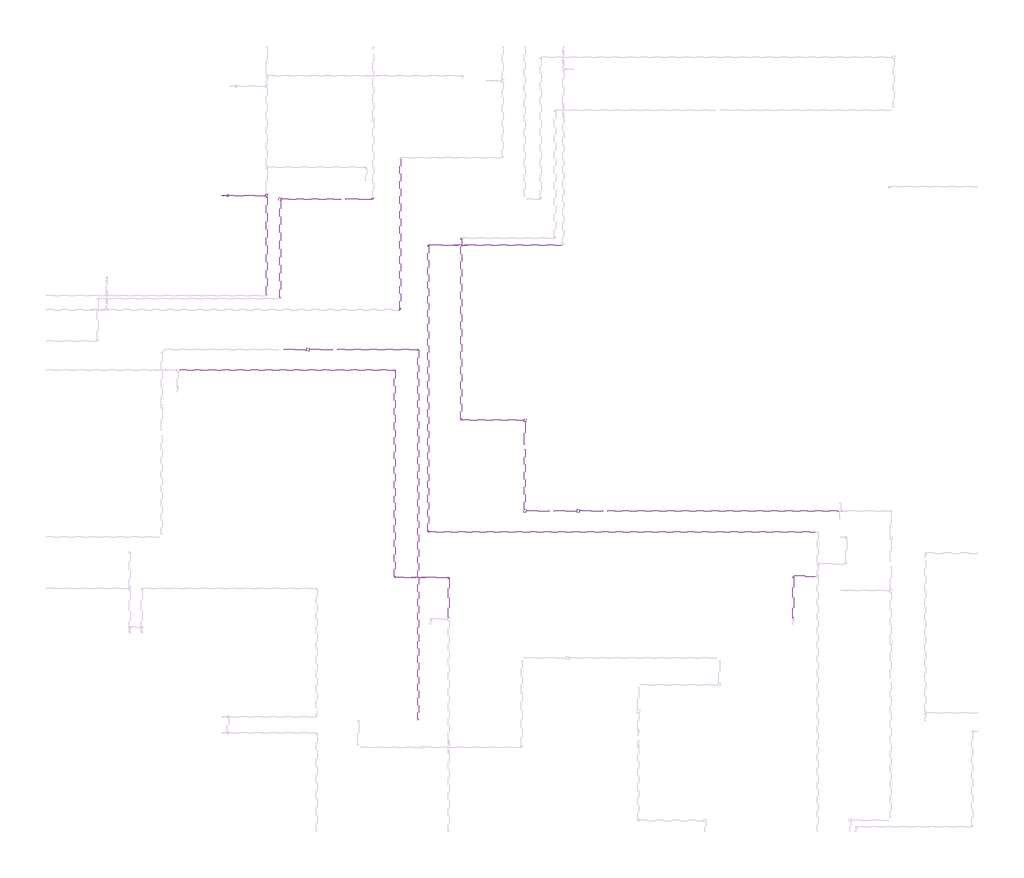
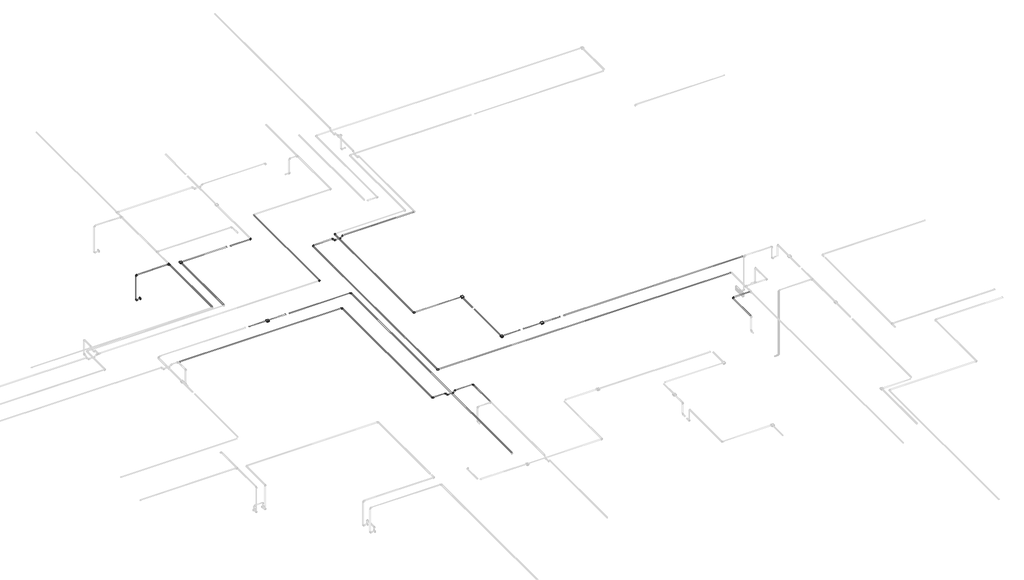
# One storey, part 32 of 40: 37 cable carrier segments, 22 cable carrier fittings, 5 alarms, 1 electric appliance.
"""IFC4 building model written with IfcOpenShell, lengths in millimetres."""

from ifc_helpers import new_model, si_unit, point, frame, frame_2d, origin, place, context, project, spatial, circle_curve, trimmed, segment, composite_curve, outline, extrude, transform, mapped, element, save
from components import alarm_a2247946, cable_carrier_fitting_69f1a801, cable_carrier_fitting_8122f9af, cable_carrier_fitting_8fd13dfc, electric_appliance_5961a143

model = new_model("IFC4")

# Units and contexts
model_context = context("Model", 3, world=origin())
ifc_project = project(units=[si_unit("LENGTHUNIT", "METRE", prefix="MILLI")], contexts=[model_context])

# Site, building, storey
site = spatial("IfcSite", under=ifc_project)
building = spatial("IfcBuilding", under=site)
storey = spatial("IfcBuildingStorey", under=building, Name="1 этаж", Elevation=0.0)

# Alarms
placement = place(None, origin())
alarm_shape = alarm_a2247946(model_context)
element("IfcAlarm", 1, ObjectType="RBZ_ИзоляторШлейфа_Рубеж_ИЗ-1_прот.R3(плоскость) : ИЗ-1 прот.R3", at=placement, inside=storey, context=model_context, shape_type="MappedRepresentation", body=[
    mapped(alarm_shape, transform((5967.6759979, 7784.6370105, 3200.0403068), x_axis=(1.0, 0.0, 0.0), y_axis=(0.0, 1.0, 0.0), z_axis=(0.0, 0.0, 1.0))),
])
element("IfcAlarm", 2, ObjectType="RBZ_ИзоляторШлейфа_Рубеж_ИЗ-1_прот.R3(плоскость) : ИЗ-1 прот.R3", at=placement, inside=storey, context=model_context, shape_type="MappedRepresentation", body=[
    mapped(alarm_shape, transform((10547.9472908, 3644.6370105, 3200.05), x_axis=(1.0, 0.0, 0.0), y_axis=(0.0, 1.0, 0.0), z_axis=(0.0, 0.0, 1.0))),
])
element("IfcAlarm", 3, ObjectType="RBZ_ИзоляторШлейфа_Рубеж_ИЗ-1_прот.R3(плоскость) : ИЗ-1 прот.R3", at=placement, inside=storey, context=model_context, shape_type="MappedRepresentation", body=[
    mapped(alarm_shape, transform((6487.2322071, 4964.637062, 3200.5606424), x_axis=(1.0, 0.0, 0.0), y_axis=(0.0, 1.0, 0.0), z_axis=(0.0, 0.0, 1.0))),
])
element("IfcAlarm", 4, ObjectType="RBZ_ИзоляторШлейфа_Рубеж_ИЗ-1_прот.R3(плоскость) : ИЗ-1 прот.R3", at=placement, inside=storey, context=model_context, shape_type="MappedRepresentation", body=[
    mapped(alarm_shape, transform((11547.2322071, 1945.4117677, 3200.05), x_axis=(1.0, 0.0, 0.0), y_axis=(0.0, 1.0, 0.0), z_axis=(0.0, 0.0, 1.0))),
])
element("IfcAlarm", 5, ObjectType="RBZ_ИзоляторШлейфа_Рубеж_ИЗ-1_прот.R3(плоскость) : ИЗ-1 прот.R3", at=placement, inside=storey, context=model_context, shape_type="MappedRepresentation", body=[
    mapped(alarm_shape, transform((10547.9472908, 1945.4117677, 3200.05), x_axis=(1.0, 0.0, 0.0), y_axis=(0.0, 1.0, 0.0), z_axis=(0.0, 0.0, 1.0))),
])

# Cable carrier fittings
cable_carrier_fitting_shape = cable_carrier_fitting_69f1a801(model_context)
element("IfcCableCarrierFitting", 6, ObjectType="ADSK_Поворот_Минимальный размер : Неспецифицируемый", at=placement, inside=storey, context=model_context, shape_type="MappedRepresentation", body=[
    mapped(cable_carrier_fitting_shape, transform((7707.6757787, 7784.6370105, 3189.2922955), x_axis=(0.999999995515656, 0.0, 9.470315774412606e-05), y_axis=(1.5270577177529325e-09, 0.9999999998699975, -1.6124675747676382e-05), z_axis=(-9.47031577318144e-05, 1.6124675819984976e-05, 0.9999999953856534))),
])
element("IfcCableCarrierFitting", 7, ObjectType="ADSK_Поворот_Минимальный размер : Неспецифицируемый", at=placement, inside=storey, context=model_context, shape_type="MappedRepresentation", body=[
    mapped(cable_carrier_fitting_shape, transform((9353.6759979, 3644.6370105, 3189.3), x_axis=(0.0, -1.0, 0.0), y_axis=(1.0, 0.0, 0.0), z_axis=(0.0, 0.0, 1.0))),
])
element("IfcCableCarrierFitting", 8, ObjectType="ADSK_Поворот_Минимальный размер : Неспецифицируемый", at=placement, inside=storey, context=model_context, shape_type="MappedRepresentation", body=[
    mapped(cable_carrier_fitting_shape, transform((8554.17594, 4964.637062, 3189.8106424), x_axis=(0.0, 1.0, 0.0), y_axis=(-1.0, 0.0, 0.0), z_axis=(0.0, 0.0, 1.0))),
])
element("IfcCableCarrierFitting", 9, ObjectType="ADSK_Поворот_Минимальный размер : Неспецифицируемый", at=placement, inside=storey, context=model_context, shape_type="MappedRepresentation", body=[
    mapped(cable_carrier_fitting_shape, transform((9353.6759979, 7054.6370105, 3189.3), x_axis=(-1.0, 0.0, 0.0), y_axis=(0.0, -1.0, 0.0), z_axis=(0.0, 0.0, 1.0))),
])
element("IfcCableCarrierFitting", 10, ObjectType="ADSK_Поворот_Минимальный размер : Неспецифицируемый", at=placement, inside=storey, context=model_context, shape_type="MappedRepresentation", body=[
    mapped(cable_carrier_fitting_shape, transform((4893.4761923, 7849.6370105, 2535.0911237), x_axis=(-1.0, 0.0, 0.0), y_axis=(0.0, 0.0, 1.0), z_axis=(0.0, 1.0, 0.0))),
])
element("IfcCableCarrierFitting", 11, ObjectType="ADSK_Поворот_Минимальный размер : Неспецифицируемый", at=placement, inside=storey, context=model_context, shape_type="MappedRepresentation", body=[
    mapped(cable_carrier_fitting_shape, transform((4893.4761923, 7849.6370105, 3187.0), x_axis=(0.0, 0.0, 1.0), y_axis=(1.0, 0.0, 0.0), z_axis=(0.0, 1.0, 0.0))),
])
element("IfcCableCarrierFitting", 12, ObjectType="ADSK_Поворот_Минимальный размер : Неспецифицируемый", at=placement, inside=storey, context=model_context, shape_type="MappedRepresentation", body=[
    mapped(cable_carrier_fitting_shape, transform((8217.6759979, 5709.6370105, 3180.0), x_axis=(1.0, 0.0, 0.0), y_axis=(0.0, 1.0, 0.0), z_axis=(0.0, 0.0, 1.0))),
])
element("IfcCableCarrierFitting", 13, ObjectType="ADSK_Поворот_Минимальный размер : Неспецифицируемый", at=placement, inside=storey, context=model_context, shape_type="MappedRepresentation", body=[
    mapped(cable_carrier_fitting_shape, transform((8736.5137184, 6924.6370105, 3180.0), x_axis=(-1.0, 0.0, 0.0), y_axis=(0.0, -1.0, 0.0), z_axis=(0.0, 0.0, 1.0))),
])
element("IfcCableCarrierFitting", 14, ObjectType="ADSK_Поворот_Минимальный размер : Неспецифицируемый", at=placement, inside=storey, context=model_context, shape_type="MappedRepresentation", body=[
    mapped(cable_carrier_fitting_shape, transform((8736.5137184, 1554.6370105, 3180.0), x_axis=(0.0, -1.0, 0.0), y_axis=(1.0, 0.0, 0.0), z_axis=(0.0, 0.0, 1.0))),
])
element("IfcCableCarrierFitting", 15, ObjectType="ADSK_Поворот_Минимальный размер : Неспецифицируемый", at=placement, inside=storey, context=model_context, shape_type="MappedRepresentation", body=[
    mapped(cable_carrier_fitting_shape, transform((8114.5925452, 4582.0648158, 3180.0), x_axis=(0.0, 1.0, 0.0), y_axis=(-1.0, 0.0, 0.0), z_axis=(0.0, 0.0, 1.0))),
])
element("IfcCableCarrierFitting", 16, ObjectType="ADSK_Поворот_Минимальный размер : Неспецифицируемый", at=placement, inside=storey, context=model_context, shape_type="MappedRepresentation", body=[
    mapped(cable_carrier_fitting_shape, transform((15567.6759979, 724.6370105, 3180.0), x_axis=(-1.0, 0.0, 0.0), y_axis=(0.0, -1.0, 0.0), z_axis=(0.0, 0.0, 1.0))),
])
element("IfcCableCarrierFitting", 17, ObjectType="ADSK_Поворот_Минимальный размер : Неспецифицируемый", at=placement, inside=storey, context=model_context, shape_type="MappedRepresentation", body=[
    mapped(cable_carrier_fitting_shape, transform((8114.5925452, 699.6370105, 3180.0), x_axis=(0.0, -1.0, 0.0), y_axis=(1.0, 0.0, 0.0), z_axis=(0.0, 0.0, 1.0))),
])
element("IfcCableCarrierFitting", 18, ObjectType="ADSK_Поворот_Минимальный размер : Неспецифицируемый", at=placement, inside=storey, context=model_context, shape_type="MappedRepresentation", body=[
    mapped(cable_carrier_fitting_shape, transform((9122.6759979, 699.6370105, 3180.0), x_axis=(0.0, 1.0, 0.0), y_axis=(-1.0, 0.0, 0.0), z_axis=(0.0, 0.0, 1.0))),
])
cable_carrier_fitting_2_shape = cable_carrier_fitting_8122f9af(model_context)
element("IfcCableCarrierFitting", 19, ObjectType="ADSK_Поворот_Минимальный размер : Неспецифицируемый", at=placement, inside=storey, context=model_context, shape_type="MappedRepresentation", body=[
    mapped(cable_carrier_fitting_2_shape, transform((9470.2482691, 6924.6370105, 3180.0), x_axis=(-1.0, 0.0, 0.0), y_axis=(0.0, 0.0, -1.0), z_axis=(0.0, -1.0, 0.0))),
])
element("IfcCableCarrierFitting", 20, ObjectType="ADSK_Поворот_Минимальный размер : Неспецифицируемый", at=placement, inside=storey, context=model_context, shape_type="MappedRepresentation", body=[
    mapped(cable_carrier_fitting_2_shape, transform((9420.2482691, 6924.6370105, 3130.0), x_axis=(-0.7071067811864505, 0.0, -0.7071067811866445), y_axis=(-0.7071067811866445, 0.0, 0.7071067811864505), z_axis=(0.0, 1.0, 0.0))),
])
element("IfcCableCarrierFitting", 21, ObjectType="ADSK_Поворот_Минимальный размер : Неспецифицируемый", at=placement, inside=storey, context=model_context, shape_type="MappedRepresentation", body=[
    mapped(cable_carrier_fitting_2_shape, transform((9287.1037266, 6924.6370105, 3130.0), x_axis=(-1.0, 0.0, 0.0), y_axis=(0.0, 0.0, 1.0), z_axis=(0.0, 1.0, 0.0))),
])
element("IfcCableCarrierFitting", 22, ObjectType="ADSK_Поворот_Минимальный размер : Неспецифицируемый", at=placement, inside=storey, context=model_context, shape_type="MappedRepresentation", body=[
    mapped(cable_carrier_fitting_2_shape, transform((9237.1037266, 6924.6370105, 3180.0), x_axis=(-0.7071067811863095, 0.0, 0.7071067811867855), y_axis=(-0.7071067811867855, 0.0, -0.7071067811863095), z_axis=(0.0, -1.0, 0.0))),
])
element("IfcCableCarrierFitting", 23, ObjectType="ADSK_Поворот_Минимальный размер : Неспецифицируемый", at=placement, inside=storey, context=model_context, shape_type="MappedRepresentation", body=[
    mapped(cable_carrier_fitting_2_shape, transform((8620.7482113, 699.6370105, 3130.0), x_axis=(-0.7071067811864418, 0.0, -0.7071067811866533), y_axis=(-0.7071067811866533, 0.0, 0.7071067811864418), z_axis=(0.0, 1.0, 0.0))),
])
element("IfcCableCarrierFitting", 24, ObjectType="ADSK_Поворот_Минимальный размер : Неспецифицируемый", at=placement, inside=storey, context=model_context, shape_type="MappedRepresentation", body=[
    mapped(cable_carrier_fitting_2_shape, transform((8487.6036688, 699.6370105, 3130.0), x_axis=(-1.0, 0.0, 0.0), y_axis=(0.0, 0.0, 1.0), z_axis=(0.0, 1.0, 0.0))),
])
element("IfcCableCarrierFitting", 25, ObjectType="ADSK_Поворот_Минимальный размер : Неспецифицируемый", at=placement, inside=storey, context=model_context, shape_type="MappedRepresentation", body=[
    mapped(cable_carrier_fitting_2_shape, transform((8437.6036688, 699.6370105, 3180.0), x_axis=(-0.707106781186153, 0.0, 0.7071067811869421), y_axis=(-0.7071067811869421, 0.0, -0.707106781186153), z_axis=(0.0, -1.0, 0.0))),
])
element("IfcCableCarrierFitting", 26, ObjectType="ADSK_Поворот_Минимальный размер : Неспецифицируемый", at=placement, inside=storey, context=model_context, shape_type="MappedRepresentation", body=[
    mapped(cable_carrier_fitting_2_shape, transform((8670.7482113, 699.6370105, 3180.0), x_axis=(0.7071067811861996, 0.0, 0.7071067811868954), y_axis=(0.7071067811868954, 0.0, -0.7071067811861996), z_axis=(0.0, 1.0, 0.0))),
])
cable_carrier_fitting_3_shape = cable_carrier_fitting_8fd13dfc(model_context)
element("IfcCableCarrierFitting", 27, ObjectType="ADSK_Тройник : ПВХ", at=placement, inside=storey, context=model_context, shape_type="MappedRepresentation", body=[
    mapped(cable_carrier_fitting_3_shape, transform((5717.6759979, 7849.6370105, 3187.0), x_axis=(0.0, -1.0, 0.0), y_axis=(1.0, 0.0, 0.0), z_axis=(0.0, 0.0, 1.0))),
])

# Cable carrier segments
element("IfcCableCarrierSegment", 28, ObjectType="Гофрированная труба", at=placement, inside=storey, context=model_context, shape_type="SweptSolid", body=[
    extrude(outline(composite_curve([segment(trimmed(circle_curve(frame_2d((3189.8106424, 8554.17594)), 10.0), [point((3189.8106424, 8564.17594))], [point((3199.8106424, 8554.17594))], False, "CARTESIAN"), True, "CONTINUOUS"), segment(trimmed(circle_curve(frame_2d((3189.8106424, 8554.17594)), 10.0), [point((3199.8106424, 8554.17594))], [point((3189.8106424, 8544.17594))], False, "CARTESIAN"), True, "CONTINUOUS"), segment(trimmed(circle_curve(frame_2d((3189.8106424, 8554.17594)), 10.0), [point((3189.8106424, 8544.17594))], [point((3179.8106424, 8554.17594))], False, "CARTESIAN"), True, "CONTINUOUS"), segment(trimmed(circle_curve(frame_2d((3189.8106424, 8554.17594)), 10.0), [point((3179.8106424, 8554.17594))], [point((3189.8106424, 8564.17594))], False, "CARTESIAN"), True, "CONTINUOUS")], self_intersect=False)), frame((0.0, -1954.3629895, 0.0), z_axis=(0.0, 1.0, 0.0), x_axis=(0.0, 0.0, 1.0)), (0.0, 0.0, 1.0), 6898.0000515),
])
element("IfcCableCarrierSegment", 29, ObjectType="Гофрированная труба", at=placement, inside=storey, context=model_context, shape_type="SweptSolid", body=[
    extrude(outline(composite_curve([segment(trimmed(circle_curve(frame_2d((3644.6370105, 3189.3)), 10.0), [point((3634.6370105, 3189.3))], [point((3644.6370105, 3199.3))], False, "CARTESIAN"), True, "CONTINUOUS"), segment(trimmed(circle_curve(frame_2d((3644.6370105, 3189.3)), 10.0), [point((3644.6370105, 3199.3))], [point((3654.6370105, 3189.3))], False, "CARTESIAN"), True, "CONTINUOUS"), segment(trimmed(circle_curve(frame_2d((3644.6370105, 3189.3)), 10.0), [point((3654.6370105, 3189.3))], [point((3644.6370105, 3179.3))], False, "CARTESIAN"), True, "CONTINUOUS"), segment(trimmed(circle_curve(frame_2d((3644.6370105, 3189.3)), 10.0), [point((3644.6370105, 3179.3))], [point((3634.6370105, 3189.3))], False, "CARTESIAN"), True, "CONTINUOUS")], self_intersect=False)), frame((9374.6759979, 0.0, 0.0), z_axis=(1.0, 0.0, 0.0), x_axis=(0.0, 1.0, 0.0)), (0.0, 0.0, 1.0), 1147.2712929),
])
element("IfcCableCarrierSegment", 30, ObjectType="Гофрированная труба", at=placement, inside=storey, context=model_context, shape_type="SweptSolid", body=[
    extrude(outline(composite_curve([segment(trimmed(circle_curve(frame_2d((3189.3, 10547.9472908)), 10.0), [point((3189.3, 10557.9472908))], [point((3199.3, 10547.9472908))], False, "CARTESIAN"), True, "CONTINUOUS"), segment(trimmed(circle_curve(frame_2d((3189.3, 10547.9472908)), 10.0), [point((3199.3, 10547.9472908))], [point((3189.3, 10537.9472908))], False, "CARTESIAN"), True, "CONTINUOUS"), segment(trimmed(circle_curve(frame_2d((3189.3, 10547.9472908)), 10.0), [point((3189.3, 10537.9472908))], [point((3179.3, 10547.9472908))], False, "CARTESIAN"), True, "CONTINUOUS"), segment(trimmed(circle_curve(frame_2d((3189.3, 10547.9472908)), 10.0), [point((3179.3, 10547.9472908))], [point((3189.3, 10557.9472908))], False, "CARTESIAN"), True, "CONTINUOUS")], self_intersect=False)), frame((0.0, 3191.1370105, 0.0), z_axis=(0.0, 1.0, 0.0), x_axis=(0.0, 0.0, 1.0)), (0.0, 0.0, 1.0), 427.5),
])
element("IfcCableCarrierSegment", 31, ObjectType="Гофрированная труба", at=placement, inside=storey, context=model_context, shape_type="SweptSolid", body=[
    extrude(outline(composite_curve([segment(trimmed(circle_curve(frame_2d((7784.6370105, 3189.2903068)), 10.0), [point((7774.6370105, 3189.290468))], [point((7784.6371718, 3199.2903068))], False, "CARTESIAN"), True, "CONTINUOUS"), segment(trimmed(circle_curve(frame_2d((7784.6370105, 3189.2903068)), 10.0), [point((7784.6371718, 3199.2903068))], [point((7794.6370105, 3189.2901455))], False, "CARTESIAN"), True, "CONTINUOUS"), segment(trimmed(circle_curve(frame_2d((7784.6370105, 3189.2903068)), 10.0), [point((7794.6370105, 3189.2901455))], [point((7784.6368493, 3179.2903068))], False, "CARTESIAN"), True, "CONTINUOUS"), segment(trimmed(circle_curve(frame_2d((7784.6370105, 3189.2903068)), 10.0), [point((7784.6368493, 3179.2903068))], [point((7774.6370105, 3189.290468))], False, "CARTESIAN"), True, "CONTINUOUS")], self_intersect=False)), frame((7200.1100316, 0.0, 0.0), z_axis=(1.0, 0.0, 0.0), x_axis=(0.0, 1.0, 0.0)), (0.0, 0.0, 1.0), 486.5657471),
])
element("IfcCableCarrierSegment", 32, ObjectType="Гофрированная труба", at=placement, inside=storey, context=model_context, shape_type="SweptSolid", body=[
    extrude(outline(composite_curve([segment(trimmed(circle_curve(frame_2d((7784.6370105, 3189.2903068)), 10.0), [point((7774.6370105, 3189.2903068))], [point((7784.6370105, 3199.2903068))], False, "CARTESIAN"), True, "CONTINUOUS"), segment(trimmed(circle_curve(frame_2d((7784.6370105, 3189.2903068)), 10.0), [point((7784.6370105, 3199.2903068))], [point((7794.6370105, 3189.2903068))], False, "CARTESIAN"), True, "CONTINUOUS"), segment(trimmed(circle_curve(frame_2d((7784.6370105, 3189.2903068)), 10.0), [point((7794.6370105, 3189.2903068))], [point((7784.6370105, 3179.2903068))], False, "CARTESIAN"), True, "CONTINUOUS"), segment(trimmed(circle_curve(frame_2d((7784.6370105, 3189.2903068)), 10.0), [point((7784.6370105, 3179.2903068))], [point((7774.6370105, 3189.2903068))], False, "CARTESIAN"), True, "CONTINUOUS")], self_intersect=False)), frame((5993.6759979, 0.0, 0.0), z_axis=(1.0, 0.0, 0.0), x_axis=(0.0, 1.0, 0.0)), (0.0, 0.0, 1.0), 1113.4340338),
])
element("IfcCableCarrierSegment", 33, ObjectType="Гофрированная труба", at=placement, inside=storey, context=model_context, shape_type="SweptSolid", body=[
    extrude(outline(composite_curve([segment(trimmed(circle_curve(frame_2d((3189.2903068, 5967.6759979)), 10.0), [point((3189.2903068, 5957.6759979))], [point((3179.2903068, 5967.6759979))], False, "CARTESIAN"), True, "CONTINUOUS"), segment(trimmed(circle_curve(frame_2d((3189.2903068, 5967.6759979)), 10.0), [point((3179.2903068, 5967.6759979))], [point((3189.2903068, 5977.6759979))], False, "CARTESIAN"), True, "CONTINUOUS"), segment(trimmed(circle_curve(frame_2d((3189.2903068, 5967.6759979)), 10.0), [point((3189.2903068, 5977.6759979))], [point((3199.2903068, 5967.6759979))], False, "CARTESIAN"), True, "CONTINUOUS"), segment(trimmed(circle_curve(frame_2d((3189.2903068, 5967.6759979)), 10.0), [point((3199.2903068, 5967.6759979))], [point((3189.2903068, 5957.6759979))], False, "CARTESIAN"), True, "CONTINUOUS")], self_intersect=False)), frame((0.0, 5939.6370105, 0.0), z_axis=(0.0, 1.0, 0.0), x_axis=(0.0, 0.0, 1.0)), (0.0, 0.0, 1.0), 1819.0),
])
element("IfcCableCarrierSegment", 34, ObjectType="Гофрированная труба", at=placement, inside=storey, context=model_context, shape_type="SweptSolid", body=[
    extrude(outline(composite_curve([segment(trimmed(circle_curve(frame_2d((4964.637062, 3189.8106424)), 10.0), [point((4974.637062, 3189.8106424))], [point((4964.637062, 3179.8106424))], False, "CARTESIAN"), True, "CONTINUOUS"), segment(trimmed(circle_curve(frame_2d((4964.637062, 3189.8106424)), 10.0), [point((4964.637062, 3179.8106424))], [point((4954.637062, 3189.8106424))], False, "CARTESIAN"), True, "CONTINUOUS"), segment(trimmed(circle_curve(frame_2d((4964.637062, 3189.8106424)), 10.0), [point((4954.637062, 3189.8106424))], [point((4964.637062, 3199.8106424))], False, "CARTESIAN"), True, "CONTINUOUS"), segment(trimmed(circle_curve(frame_2d((4964.637062, 3189.8106424)), 10.0), [point((4964.637062, 3199.8106424))], [point((4974.637062, 3189.8106424))], False, "CARTESIAN"), True, "CONTINUOUS")], self_intersect=False)), frame((6034.1759979, 0.0, 0.0), z_axis=(1.0, 0.0, 0.0), x_axis=(0.0, 1.0, 0.0)), (0.0, 0.0, 1.0), 427.0562092),
])
element("IfcCableCarrierSegment", 35, ObjectType="Гофрированная труба", at=placement, inside=storey, context=model_context, shape_type="SweptSolid", body=[
    extrude(outline(composite_curve([segment(trimmed(circle_curve(frame_2d((4964.637062, 3189.8106424)), 10.0), [point((4974.637062, 3189.8106424))], [point((4964.637062, 3179.8106424))], False, "CARTESIAN"), True, "CONTINUOUS"), segment(trimmed(circle_curve(frame_2d((4964.637062, 3189.8106424)), 10.0), [point((4964.637062, 3179.8106424))], [point((4954.637062, 3189.8106424))], False, "CARTESIAN"), True, "CONTINUOUS"), segment(trimmed(circle_curve(frame_2d((4964.637062, 3189.8106424)), 10.0), [point((4954.637062, 3189.8106424))], [point((4964.637062, 3199.8106424))], False, "CARTESIAN"), True, "CONTINUOUS"), segment(trimmed(circle_curve(frame_2d((4964.637062, 3189.8106424)), 10.0), [point((4964.637062, 3199.8106424))], [point((4974.637062, 3189.8106424))], False, "CARTESIAN"), True, "CONTINUOUS")], self_intersect=False)), frame((6513.2322071, 0.0, 0.0), z_axis=(1.0, 0.0, 0.0), x_axis=(0.0, 1.0, 0.0)), (0.0, 0.0, 1.0), 427.5318335),
])
element("IfcCableCarrierSegment", 36, ObjectType="Гофрированная труба", at=placement, inside=storey, context=model_context, shape_type="SweptSolid", body=[
    extrude(outline(composite_curve([segment(trimmed(circle_curve(frame_2d((4964.637062, 3189.8106424)), 10.0), [point((4974.637062, 3189.8106424))], [point((4964.637062, 3179.8106424))], False, "CARTESIAN"), True, "CONTINUOUS"), segment(trimmed(circle_curve(frame_2d((4964.637062, 3189.8106424)), 10.0), [point((4964.637062, 3179.8106424))], [point((4954.637062, 3189.8106424))], False, "CARTESIAN"), True, "CONTINUOUS"), segment(trimmed(circle_curve(frame_2d((4964.637062, 3189.8106424)), 10.0), [point((4954.637062, 3189.8106424))], [point((4964.637062, 3199.8106424))], False, "CARTESIAN"), True, "CONTINUOUS"), segment(trimmed(circle_curve(frame_2d((4964.637062, 3189.8106424)), 10.0), [point((4964.637062, 3199.8106424))], [point((4974.637062, 3189.8106424))], False, "CARTESIAN"), True, "CONTINUOUS")], self_intersect=False)), frame((7033.7640407, 0.0, 0.0), z_axis=(1.0, 0.0, 0.0), x_axis=(0.0, 1.0, 0.0)), (0.0, 0.0, 1.0), 1499.4118994),
])
element("IfcCableCarrierSegment", 37, ObjectType="Гофрированная труба", at=placement, inside=storey, context=model_context, shape_type="SweptSolid", body=[
    extrude(outline(composite_curve([segment(trimmed(circle_curve(frame_2d((3189.3, 10547.9472908)), 10.0), [point((3189.3, 10537.9472908))], [point((3179.3, 10547.9472908))], False, "CARTESIAN"), True, "CONTINUOUS"), segment(trimmed(circle_curve(frame_2d((3189.3, 10547.9472908)), 10.0), [point((3179.3, 10547.9472908))], [point((3189.3, 10557.9472908))], False, "CARTESIAN"), True, "CONTINUOUS"), segment(trimmed(circle_curve(frame_2d((3189.3, 10547.9472908)), 10.0), [point((3189.3, 10557.9472908))], [point((3199.3, 10547.9472908))], False, "CARTESIAN"), True, "CONTINUOUS"), segment(trimmed(circle_curve(frame_2d((3189.3, 10547.9472908)), 10.0), [point((3199.3, 10547.9472908))], [point((3189.3, 10537.9472908))], False, "CARTESIAN"), True, "CONTINUOUS")], self_intersect=False)), frame((0.0, 1971.4117677, 0.0), z_axis=(0.0, 1.0, 0.0), x_axis=(0.0, 0.0, 1.0)), (0.0, 0.0, 1.0), 1126.7252428),
])
element("IfcCableCarrierSegment", 38, ObjectType="Гофрированная труба", at=placement, inside=storey, context=model_context, shape_type="SweptSolid", body=[
    extrude(outline(composite_curve([segment(trimmed(circle_curve(frame_2d((1945.4117677, 3189.3)), 10.0), [point((1955.4117677, 3189.3))], [point((1945.4117677, 3179.3))], False, "CARTESIAN"), True, "CONTINUOUS"), segment(trimmed(circle_curve(frame_2d((1945.4117677, 3189.3)), 10.0), [point((1945.4117677, 3179.3))], [point((1935.4117677, 3189.3))], False, "CARTESIAN"), True, "CONTINUOUS"), segment(trimmed(circle_curve(frame_2d((1945.4117677, 3189.3)), 10.0), [point((1935.4117677, 3189.3))], [point((1945.4117677, 3199.3))], False, "CARTESIAN"), True, "CONTINUOUS"), segment(trimmed(circle_curve(frame_2d((1945.4117677, 3189.3)), 10.0), [point((1945.4117677, 3199.3))], [point((1955.4117677, 3189.3))], False, "CARTESIAN"), True, "CONTINUOUS")], self_intersect=False)), frame((10573.9472908, 0.0, 0.0), z_axis=(1.0, 0.0, 0.0), x_axis=(0.0, 1.0, 0.0)), (0.0, 0.0, 1.0), 427.2287071),
])
element("IfcCableCarrierSegment", 39, ObjectType="Гофрированная труба", at=placement, inside=storey, context=model_context, shape_type="SweptSolid", body=[
    extrude(outline(composite_curve([segment(trimmed(circle_curve(frame_2d((1945.4117677, 3189.3)), 10.0), [point((1955.4117677, 3189.3))], [point((1945.4117677, 3179.3))], False, "CARTESIAN"), True, "CONTINUOUS"), segment(trimmed(circle_curve(frame_2d((1945.4117677, 3189.3)), 10.0), [point((1945.4117677, 3179.3))], [point((1935.4117677, 3189.3))], False, "CARTESIAN"), True, "CONTINUOUS"), segment(trimmed(circle_curve(frame_2d((1945.4117677, 3189.3)), 10.0), [point((1935.4117677, 3189.3))], [point((1945.4117677, 3199.3))], False, "CARTESIAN"), True, "CONTINUOUS"), segment(trimmed(circle_curve(frame_2d((1945.4117677, 3189.3)), 10.0), [point((1945.4117677, 3199.3))], [point((1955.4117677, 3189.3))], False, "CARTESIAN"), True, "CONTINUOUS")], self_intersect=False)), frame((11094.1759979, 0.0, 0.0), z_axis=(1.0, 0.0, 0.0), x_axis=(0.0, 1.0, 0.0)), (0.0, 0.0, 1.0), 427.0562092),
])
element("IfcCableCarrierSegment", 40, ObjectType="Гофрированная труба", at=placement, inside=storey, context=model_context, shape_type="SweptSolid", body=[
    extrude(outline(composite_curve([segment(trimmed(circle_curve(frame_2d((1945.4117677, 3189.3)), 10.0), [point((1955.4117677, 3189.3))], [point((1945.4117677, 3179.3))], False, "CARTESIAN"), True, "CONTINUOUS"), segment(trimmed(circle_curve(frame_2d((1945.4117677, 3189.3)), 10.0), [point((1945.4117677, 3179.3))], [point((1935.4117677, 3189.3))], False, "CARTESIAN"), True, "CONTINUOUS"), segment(trimmed(circle_curve(frame_2d((1945.4117677, 3189.3)), 10.0), [point((1935.4117677, 3189.3))], [point((1945.4117677, 3199.3))], False, "CARTESIAN"), True, "CONTINUOUS"), segment(trimmed(circle_curve(frame_2d((1945.4117677, 3189.3)), 10.0), [point((1945.4117677, 3199.3))], [point((1955.4117677, 3189.3))], False, "CARTESIAN"), True, "CONTINUOUS")], self_intersect=False)), frame((11573.2322071, 0.0, 0.0), z_axis=(1.0, 0.0, 0.0), x_axis=(0.0, 1.0, 0.0)), (0.0, 0.0, 1.0), 427.5318335),
])
element("IfcCableCarrierSegment", 41, ObjectType="Гофрированная труба", at=placement, inside=storey, context=model_context, shape_type="SweptSolid", body=[
    extrude(outline(composite_curve([segment(trimmed(circle_curve(frame_2d((3189.3, 9353.6759979)), 10.0), [point((3189.3, 9363.6759979))], [point((3199.3, 9353.6759979))], False, "CARTESIAN"), True, "CONTINUOUS"), segment(trimmed(circle_curve(frame_2d((3189.3, 9353.6759979)), 10.0), [point((3199.3, 9353.6759979))], [point((3189.3, 9343.6759979))], False, "CARTESIAN"), True, "CONTINUOUS"), segment(trimmed(circle_curve(frame_2d((3189.3, 9353.6759979)), 10.0), [point((3189.3, 9343.6759979))], [point((3179.3, 9353.6759979))], False, "CARTESIAN"), True, "CONTINUOUS"), segment(trimmed(circle_curve(frame_2d((3189.3, 9353.6759979)), 10.0), [point((3179.3, 9353.6759979))], [point((3189.3, 9363.6759979))], False, "CARTESIAN"), True, "CONTINUOUS")], self_intersect=False)), frame((0.0, 3665.6370105, 0.0), z_axis=(0.0, 1.0, 0.0), x_axis=(0.0, 0.0, 1.0)), (0.0, 0.0, 1.0), 3368.0),
])
element("IfcCableCarrierSegment", 42, ObjectType="Гофрированная труба", at=placement, inside=storey, context=model_context, shape_type="SweptSolid", body=[
    extrude(outline(composite_curve([segment(trimmed(circle_curve(frame_2d((7849.6370105, 3187.0)), 10.0), [point((7839.6370105, 3187.0))], [point((7849.6370105, 3197.0))], False, "CARTESIAN"), True, "CONTINUOUS"), segment(trimmed(circle_curve(frame_2d((7849.6370105, 3187.0)), 10.0), [point((7849.6370105, 3197.0))], [point((7859.6370105, 3187.0))], False, "CARTESIAN"), True, "CONTINUOUS"), segment(trimmed(circle_curve(frame_2d((7849.6370105, 3187.0)), 10.0), [point((7859.6370105, 3187.0))], [point((7849.6370105, 3177.0))], False, "CARTESIAN"), True, "CONTINUOUS"), segment(trimmed(circle_curve(frame_2d((7849.6370105, 3187.0)), 10.0), [point((7849.6370105, 3177.0))], [point((7839.6370105, 3187.0))], False, "CARTESIAN"), True, "CONTINUOUS")], self_intersect=False)), frame((4914.4761923, 0.0, 0.0), z_axis=(1.0, 0.0, 0.0), x_axis=(0.0, 1.0, 0.0)), (0.0, 0.0, 1.0), 773.1998056),
])
element("IfcCableCarrierSegment", 43, ObjectType="Гофрированная труба", at=placement, inside=storey, context=model_context, shape_type="SweptSolid", body=[
    extrude(outline(composite_curve([segment(trimmed(circle_curve(frame_2d((7849.6370105, 2535.0911237)), 10.0), [point((7859.6370105, 2535.0911237))], [point((7849.6370105, 2525.0911237))], False, "CARTESIAN"), True, "CONTINUOUS"), segment(trimmed(circle_curve(frame_2d((7849.6370105, 2535.0911237)), 10.0), [point((7849.6370105, 2525.0911237))], [point((7839.6370105, 2535.0911237))], False, "CARTESIAN"), True, "CONTINUOUS"), segment(trimmed(circle_curve(frame_2d((7849.6370105, 2535.0911237)), 10.0), [point((7839.6370105, 2535.0911237))], [point((7849.6370105, 2545.0911237))], False, "CARTESIAN"), True, "CONTINUOUS"), segment(trimmed(circle_curve(frame_2d((7849.6370105, 2535.0911237)), 10.0), [point((7849.6370105, 2545.0911237))], [point((7859.6370105, 2535.0911237))], False, "CARTESIAN"), True, "CONTINUOUS")], self_intersect=False)), frame((4914.4761923, 0.0, 0.0), z_axis=(1.0, 0.0, 0.0), x_axis=(0.0, 1.0, 0.0)), (0.0, 0.0, 1.0), 76.1998056),
])
element("IfcCableCarrierSegment", 44, ObjectType="Гофрированная труба", at=placement, inside=storey, context=model_context, shape_type="SweptSolid", body=[
    extrude(outline(composite_curve([segment(trimmed(circle_curve(frame_2d((4893.4761923, 7849.6370105)), 10.0), [point((4883.4761923, 7849.6370105))], [point((4893.4761923, 7859.6370105))], False, "CARTESIAN"), True, "CONTINUOUS"), segment(trimmed(circle_curve(frame_2d((4893.4761923, 7849.6370105)), 10.0), [point((4893.4761923, 7859.6370105))], [point((4903.4761923, 7849.6370105))], False, "CARTESIAN"), True, "CONTINUOUS"), segment(trimmed(circle_curve(frame_2d((4893.4761923, 7849.6370105)), 10.0), [point((4903.4761923, 7849.6370105))], [point((4893.4761923, 7839.6370105))], False, "CARTESIAN"), True, "CONTINUOUS"), segment(trimmed(circle_curve(frame_2d((4893.4761923, 7849.6370105)), 10.0), [point((4893.4761923, 7839.6370105))], [point((4883.4761923, 7849.6370105))], False, "CARTESIAN"), True, "CONTINUOUS")], self_intersect=False)), frame((0.0, 0.0, 2556.0911237), z_axis=(0.0, 0.0, 1.0), x_axis=(1.0, 0.0, 0.0)), (0.0, 0.0, 1.0), 609.9088763),
])
element("IfcCableCarrierSegment", 45, ObjectType="Гофрированная труба", at=placement, inside=storey, context=model_context, shape_type="SweptSolid", body=[
    extrude(outline(composite_curve([segment(trimmed(circle_curve(frame_2d((3187.0, 5717.6759979)), 10.0), [point((3187.0, 5727.6759979))], [point((3197.0, 5717.6759979))], False, "CARTESIAN"), True, "CONTINUOUS"), segment(trimmed(circle_curve(frame_2d((3187.0, 5717.6759979)), 10.0), [point((3197.0, 5717.6759979))], [point((3187.0, 5707.6759979))], False, "CARTESIAN"), True, "CONTINUOUS"), segment(trimmed(circle_curve(frame_2d((3187.0, 5717.6759979)), 10.0), [point((3187.0, 5707.6759979))], [point((3177.0, 5717.6759979))], False, "CARTESIAN"), True, "CONTINUOUS"), segment(trimmed(circle_curve(frame_2d((3187.0, 5717.6759979)), 10.0), [point((3177.0, 5717.6759979))], [point((3187.0, 5727.6759979))], False, "CARTESIAN"), True, "CONTINUOUS")], self_intersect=False)), frame((0.0, 5997.4696908, 0.0), z_axis=(0.0, 1.0, 0.0), x_axis=(0.0, 0.0, 1.0)), (0.0, 0.0, 1.0), 1822.1673197),
])
element("IfcCableCarrierSegment", 46, ObjectType="Гофрированная труба", at=placement, inside=storey, context=model_context, shape_type="SweptSolid", body=[
    extrude(outline(composite_curve([segment(trimmed(circle_curve(frame_2d((3180.0, 8217.6759979)), 10.0), [point((3180.0, 8227.6759979))], [point((3190.0, 8217.6759979))], False, "CARTESIAN"), True, "CONTINUOUS"), segment(trimmed(circle_curve(frame_2d((3180.0, 8217.6759979)), 10.0), [point((3190.0, 8217.6759979))], [point((3180.0, 8207.6759979))], False, "CARTESIAN"), True, "CONTINUOUS"), segment(trimmed(circle_curve(frame_2d((3180.0, 8217.6759979)), 10.0), [point((3180.0, 8207.6759979))], [point((3170.0, 8217.6759979))], False, "CARTESIAN"), True, "CONTINUOUS"), segment(trimmed(circle_curve(frame_2d((3180.0, 8217.6759979)), 10.0), [point((3170.0, 8217.6759979))], [point((3180.0, 8227.6759979))], False, "CARTESIAN"), True, "CONTINUOUS")], self_intersect=False)), frame((0.0, 5730.6370105, 0.0), z_axis=(0.0, 1.0, 0.0), x_axis=(0.0, 0.0, 1.0)), (0.0, 0.0, 1.0), 2808.0768393),
])
element("IfcCableCarrierSegment", 47, ObjectType="Гофрированная труба", at=placement, inside=storey, context=model_context, shape_type="SweptSolid", body=[
    extrude(outline(composite_curve([segment(trimmed(circle_curve(frame_2d((0.0, -10.0)), 10.0), [point((-10.0, -10.0))], [point((0.0, 0.0))], False, "CARTESIAN"), True, "CONTINUOUS"), segment(trimmed(circle_curve(frame_2d((0.0, -10.0)), 10.0), [point((0.0, 0.0))], [point((10.0, -10.0))], False, "CARTESIAN"), True, "CONTINUOUS"), segment(trimmed(circle_curve(frame_2d((0.0, -10.0)), 10.0), [point((10.0, -10.0))], [point((0.0, -20.0))], False, "CARTESIAN"), True, "CONTINUOUS"), segment(trimmed(circle_curve(frame_2d((0.0, -10.0)), 10.0), [point((0.0, -20.0))], [point((-10.0, -10.0))], False, "CARTESIAN"), True, "CONTINUOUS")], self_intersect=False)), frame((9296.3879979, 6924.6370105, 3120.0), z_axis=(1.0, 0.0, 1.0828671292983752e-12), x_axis=(0.0, -1.0, 0.0)), (0.0, 0.0, 1.0), 114.576),
])
element("IfcCableCarrierSegment", 48, ObjectType="Гофрированная труба", at=placement, inside=storey, context=model_context, shape_type="SweptSolid", body=[
    extrude(outline(composite_curve([segment(trimmed(circle_curve(frame_2d((3180.0, 8736.5137184)), 10.0), [point((3180.0, 8726.5137184))], [point((3170.0, 8736.5137184))], False, "CARTESIAN"), True, "CONTINUOUS"), segment(trimmed(circle_curve(frame_2d((3180.0, 8736.5137184)), 10.0), [point((3170.0, 8736.5137184))], [point((3180.0, 8746.5137184))], False, "CARTESIAN"), True, "CONTINUOUS"), segment(trimmed(circle_curve(frame_2d((3180.0, 8736.5137184)), 10.0), [point((3180.0, 8746.5137184))], [point((3190.0, 8736.5137184))], False, "CARTESIAN"), True, "CONTINUOUS"), segment(trimmed(circle_curve(frame_2d((3180.0, 8736.5137184)), 10.0), [point((3190.0, 8736.5137184))], [point((3180.0, 8726.5137184))], False, "CARTESIAN"), True, "CONTINUOUS")], self_intersect=False)), frame((0.0, 1575.6370105, 0.0), z_axis=(0.0, 1.0, 0.0), x_axis=(0.0, 0.0, 1.0)), (0.0, 0.0, 1.0), 5328.0),
])
element("IfcCableCarrierSegment", 49, ObjectType="Гофрированная труба", at=placement, inside=storey, context=model_context, shape_type="SweptSolid", body=[
    extrude(outline(composite_curve([segment(trimmed(circle_curve(frame_2d((1554.6370105, 3180.0)), 10.0), [point((1544.6370105, 3180.0))], [point((1554.6370105, 3190.0))], False, "CARTESIAN"), True, "CONTINUOUS"), segment(trimmed(circle_curve(frame_2d((1554.6370105, 3180.0)), 10.0), [point((1554.6370105, 3190.0))], [point((1564.6370105, 3180.0))], False, "CARTESIAN"), True, "CONTINUOUS"), segment(trimmed(circle_curve(frame_2d((1554.6370105, 3180.0)), 10.0), [point((1564.6370105, 3180.0))], [point((1554.6370105, 3170.0))], False, "CARTESIAN"), True, "CONTINUOUS"), segment(trimmed(circle_curve(frame_2d((1554.6370105, 3180.0)), 10.0), [point((1554.6370105, 3170.0))], [point((1544.6370105, 3180.0))], False, "CARTESIAN"), True, "CONTINUOUS")], self_intersect=False)), frame((8757.5137184, 0.0, 0.0), z_axis=(1.0, 0.0, 0.0), x_axis=(0.0, 1.0, 0.0)), (0.0, 0.0, 1.0), 7244.1622795),
])
element("IfcCableCarrierSegment", 50, ObjectType="Гофрированная труба", at=placement, inside=storey, context=model_context, shape_type="SweptSolid", body=[
    extrude(outline(composite_curve([segment(trimmed(circle_curve(frame_2d((3180.0, 8114.5925452)), 10.0), [point((3180.0, 8124.5925452))], [point((3190.0, 8114.5925452))], False, "CARTESIAN"), True, "CONTINUOUS"), segment(trimmed(circle_curve(frame_2d((3180.0, 8114.5925452)), 10.0), [point((3190.0, 8114.5925452))], [point((3180.0, 8104.5925452))], False, "CARTESIAN"), True, "CONTINUOUS"), segment(trimmed(circle_curve(frame_2d((3180.0, 8114.5925452)), 10.0), [point((3180.0, 8104.5925452))], [point((3170.0, 8114.5925452))], False, "CARTESIAN"), True, "CONTINUOUS"), segment(trimmed(circle_curve(frame_2d((3180.0, 8114.5925452)), 10.0), [point((3170.0, 8114.5925452))], [point((3180.0, 8124.5925452))], False, "CARTESIAN"), True, "CONTINUOUS")], self_intersect=False)), frame((0.0, 720.6370105, 0.0), z_axis=(0.0, 1.0, 0.0), x_axis=(0.0, 0.0, 1.0)), (0.0, 0.0, 1.0), 3840.4278052),
])
element("IfcCableCarrierSegment", 51, ObjectType="Гофрированная труба", at=placement, inside=storey, context=model_context, shape_type="SweptSolid", body=[
    extrude(outline(composite_curve([segment(trimmed(circle_curve(frame_2d((699.6370105, 3180.0)), 10.0), [point((709.6370105, 3180.0))], [point((699.6370105, 3170.0))], False, "CARTESIAN"), True, "CONTINUOUS"), segment(trimmed(circle_curve(frame_2d((699.6370105, 3180.0)), 10.0), [point((699.6370105, 3170.0))], [point((689.6370105, 3180.0))], False, "CARTESIAN"), True, "CONTINUOUS"), segment(trimmed(circle_curve(frame_2d((699.6370105, 3180.0)), 10.0), [point((689.6370105, 3180.0))], [point((699.6370105, 3190.0))], False, "CARTESIAN"), True, "CONTINUOUS"), segment(trimmed(circle_curve(frame_2d((699.6370105, 3180.0)), 10.0), [point((699.6370105, 3190.0))], [point((709.6370105, 3180.0))], False, "CARTESIAN"), True, "CONTINUOUS")], self_intersect=False)), frame((8680.0324825, 0.0, 0.0), z_axis=(1.0, 0.0, 0.0), x_axis=(0.0, 1.0, 0.0)), (0.0, 0.0, 1.0), 421.6435154),
])
element("IfcCableCarrierSegment", 52, ObjectType="Гофрированная труба", at=placement, inside=storey, context=model_context, shape_type="SweptSolid", body=[
    extrude(outline(composite_curve([segment(trimmed(circle_curve(frame_2d((3180.0, 15567.6759979)), 10.0), [point((3180.0, 15577.6759979))], [point((3190.0, 15567.6759979))], False, "CARTESIAN"), True, "CONTINUOUS"), segment(trimmed(circle_curve(frame_2d((3180.0, 15567.6759979)), 10.0), [point((3190.0, 15567.6759979))], [point((3180.0, 15557.6759979))], False, "CARTESIAN"), True, "CONTINUOUS"), segment(trimmed(circle_curve(frame_2d((3180.0, 15567.6759979)), 10.0), [point((3180.0, 15557.6759979))], [point((3170.0, 15567.6759979))], False, "CARTESIAN"), True, "CONTINUOUS"), segment(trimmed(circle_curve(frame_2d((3180.0, 15567.6759979)), 10.0), [point((3170.0, 15567.6759979))], [point((3180.0, 15577.6759979))], False, "CARTESIAN"), True, "CONTINUOUS")], self_intersect=False)), frame((0.0, -57.1631839, 0.0), z_axis=(0.0, 1.0, 0.0), x_axis=(0.0, 0.0, 1.0)), (0.0, 0.0, 1.0), 760.8001944),
])
element("IfcCableCarrierSegment", 53, ObjectType="Гофрированная труба", at=placement, inside=storey, context=model_context, shape_type="SweptSolid", body=[
    extrude(outline(composite_curve([segment(trimmed(circle_curve(frame_2d((724.6370105, 3180.0)), 10.0), [point((734.6370105, 3180.0))], [point((724.6370105, 3170.0))], False, "CARTESIAN"), True, "CONTINUOUS"), segment(trimmed(circle_curve(frame_2d((724.6370105, 3180.0)), 10.0), [point((724.6370105, 3170.0))], [point((714.6370105, 3180.0))], False, "CARTESIAN"), True, "CONTINUOUS"), segment(trimmed(circle_curve(frame_2d((724.6370105, 3180.0)), 10.0), [point((714.6370105, 3180.0))], [point((724.6370105, 3190.0))], False, "CARTESIAN"), True, "CONTINUOUS"), segment(trimmed(circle_curve(frame_2d((724.6370105, 3180.0)), 10.0), [point((724.6370105, 3190.0))], [point((734.6370105, 3180.0))], False, "CARTESIAN"), True, "CONTINUOUS")], self_intersect=False)), frame((15588.6759979, 0.0, 0.0), z_axis=(1.0, 0.0, 0.0), x_axis=(0.0, 1.0, 0.0)), (0.0, 0.0, 1.0), 404.0),
])
element("IfcCableCarrierSegment", 54, ObjectType="Гофрированная труба", at=placement, inside=storey, context=model_context, shape_type="SweptSolid", body=[
    extrude(outline(composite_curve([segment(trimmed(circle_curve(frame_2d((4582.0648158, 3180.0)), 10.0), [point((4592.0648158, 3180.0))], [point((4582.0648158, 3170.0))], False, "CARTESIAN"), True, "CONTINUOUS"), segment(trimmed(circle_curve(frame_2d((4582.0648158, 3180.0)), 10.0), [point((4582.0648158, 3170.0))], [point((4572.0648158, 3180.0))], False, "CARTESIAN"), True, "CONTINUOUS"), segment(trimmed(circle_curve(frame_2d((4582.0648158, 3180.0)), 10.0), [point((4572.0648158, 3180.0))], [point((4582.0648158, 3190.0))], False, "CARTESIAN"), True, "CONTINUOUS"), segment(trimmed(circle_curve(frame_2d((4582.0648158, 3180.0)), 10.0), [point((4582.0648158, 3190.0))], [point((4592.0648158, 3180.0))], False, "CARTESIAN"), True, "CONTINUOUS")], self_intersect=False)), frame((4087.6759979, 0.0, 0.0), z_axis=(1.0, 0.0, 0.0), x_axis=(0.0, 1.0, 0.0)), (0.0, 0.0, 1.0), 4005.9165473),
])
element("IfcCableCarrierSegment", 55, ObjectType="Гофрированная труба", at=placement, inside=storey, context=model_context, shape_type="SweptSolid", body=[
    extrude(outline(composite_curve([segment(trimmed(circle_curve(frame_2d((6924.6370105, 3180.0)), 10.0), [point((6934.6370105, 3180.0))], [point((6924.6370105, 3170.0))], False, "CARTESIAN"), True, "CONTINUOUS"), segment(trimmed(circle_curve(frame_2d((6924.6370105, 3180.0)), 10.0), [point((6924.6370105, 3170.0))], [point((6914.6370105, 3180.0))], False, "CARTESIAN"), True, "CONTINUOUS"), segment(trimmed(circle_curve(frame_2d((6924.6370105, 3180.0)), 10.0), [point((6914.6370105, 3180.0))], [point((6924.6370105, 3190.0))], False, "CARTESIAN"), True, "CONTINUOUS"), segment(trimmed(circle_curve(frame_2d((6924.6370105, 3180.0)), 10.0), [point((6924.6370105, 3190.0))], [point((6934.6370105, 3180.0))], False, "CARTESIAN"), True, "CONTINUOUS")], self_intersect=False)), frame((9479.5325404, 0.0, 0.0), z_axis=(1.0, 0.0, 0.0), x_axis=(0.0, 1.0, 0.0)), (0.0, 0.0, 1.0), 1767.1434575),
])
element("IfcCableCarrierSegment", 56, ObjectType="Гофрированная труба", at=placement, inside=storey, context=model_context, shape_type="SweptSolid", body=[
    extrude(outline(composite_curve([segment(trimmed(circle_curve(frame_2d((0.0, -10.0)), 10.0), [point((0.0, 0.0))], [point((10.0000001, -10.0))], False, "CARTESIAN"), True, "CONTINUOUS"), segment(trimmed(circle_curve(frame_2d((0.0, -10.0)), 10.0), [point((10.0000001, -10.0))], [point((0.0, -20.0))], False, "CARTESIAN"), True, "CONTINUOUS"), segment(trimmed(circle_curve(frame_2d((0.0, -10.0)), 10.0), [point((0.0, -20.0))], [point((-10.0, -10.0))], False, "CARTESIAN"), True, "CONTINUOUS"), segment(trimmed(circle_curve(frame_2d((0.0, -10.0)), 10.0), [point((-10.0, -10.0))], [point((0.0, 0.0))], False, "CARTESIAN"), True, "CONTINUOUS")], self_intersect=False)), frame((9426.8132403, 6934.6370105, 3136.5649712), z_axis=(0.7071067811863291, 0.0, 0.7071067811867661), x_axis=(0.7071067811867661, 0.0, -0.7071067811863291)), (0.0, 0.0, 1.0), 52.1421356),
])
element("IfcCableCarrierSegment", 57, ObjectType="Гофрированная труба", at=placement, inside=storey, context=model_context, shape_type="SweptSolid", body=[
    extrude(outline(composite_curve([segment(trimmed(circle_curve(frame_2d((6924.6370105, 3180.0)), 10.0), [point((6934.6370105, 3180.0))], [point((6924.6370105, 3170.0))], False, "CARTESIAN"), True, "CONTINUOUS"), segment(trimmed(circle_curve(frame_2d((6924.6370105, 3180.0)), 10.0), [point((6924.6370105, 3170.0))], [point((6914.6370105, 3180.0))], False, "CARTESIAN"), True, "CONTINUOUS"), segment(trimmed(circle_curve(frame_2d((6924.6370105, 3180.0)), 10.0), [point((6914.6370105, 3180.0))], [point((6924.6370105, 3190.0))], False, "CARTESIAN"), True, "CONTINUOUS"), segment(trimmed(circle_curve(frame_2d((6924.6370105, 3180.0)), 10.0), [point((6924.6370105, 3190.0))], [point((6934.6370105, 3180.0))], False, "CARTESIAN"), True, "CONTINUOUS")], self_intersect=False)), frame((8757.5137184, 0.0, 0.0), z_axis=(1.0, 0.0, 0.0), x_axis=(0.0, 1.0, 0.0)), (0.0, 0.0, 1.0), 470.305737),
])
element("IfcCableCarrierSegment", 58, ObjectType="Гофрированная труба", at=placement, inside=storey, context=model_context, shape_type="SweptSolid", body=[
    extrude(outline(composite_curve([segment(trimmed(circle_curve(frame_2d((0.0, 10.0)), 10.0), [point((0.0, 20.0))], [point((10.0, 10.0))], False, "CARTESIAN"), True, "CONTINUOUS"), segment(trimmed(circle_curve(frame_2d((0.0, 10.0)), 10.0), [point((10.0, 10.0))], [point((0.0, 0.0))], False, "CARTESIAN"), True, "CONTINUOUS"), segment(trimmed(circle_curve(frame_2d((0.0, 10.0)), 10.0), [point((0.0, 0.0))], [point((-10.0000001, 10.0))], False, "CARTESIAN"), True, "CONTINUOUS"), segment(trimmed(circle_curve(frame_2d((0.0, 10.0)), 10.0), [point((-10.0000001, 10.0))], [point((0.0, 20.0))], False, "CARTESIAN"), True, "CONTINUOUS")], self_intersect=False)), frame((9280.5387555, 6914.6370105, 3136.5649712), z_axis=(-0.7071067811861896, 0.0, 0.7071067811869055), x_axis=(0.7071067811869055, 0.0, 0.7071067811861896)), (0.0, 0.0, 1.0), 52.1421356),
])
element("IfcCableCarrierSegment", 59, ObjectType="Гофрированная труба", at=placement, inside=storey, context=model_context, shape_type="SweptSolid", body=[
    extrude(outline(composite_curve([segment(trimmed(circle_curve(frame_2d((3180.0, 9122.6759979)), 10.0), [point((3180.0, 9132.6759979))], [point((3190.0, 9122.6759979))], False, "CARTESIAN"), True, "CONTINUOUS"), segment(trimmed(circle_curve(frame_2d((3180.0, 9122.6759979)), 10.0), [point((3190.0, 9122.6759979))], [point((3180.0, 9112.6759979))], False, "CARTESIAN"), True, "CONTINUOUS"), segment(trimmed(circle_curve(frame_2d((3180.0, 9122.6759979)), 10.0), [point((3180.0, 9112.6759979))], [point((3170.0, 9122.6759979))], False, "CARTESIAN"), True, "CONTINUOUS"), segment(trimmed(circle_curve(frame_2d((3180.0, 9122.6759979)), 10.0), [point((3170.0, 9122.6759979))], [point((3180.0, 9132.6759979))], False, "CARTESIAN"), True, "CONTINUOUS")], self_intersect=False)), frame((0.0, -48.1631839, 0.0), z_axis=(0.0, 1.0, 0.0), x_axis=(0.0, 0.0, 1.0)), (0.0, 0.0, 1.0), 726.8001944),
])
element("IfcCableCarrierSegment", 60, ObjectType="Гофрированная труба", at=placement, inside=storey, context=model_context, shape_type="SweptSolid", body=[
    extrude(outline(composite_curve([segment(trimmed(circle_curve(frame_2d((0.0, -10.0)), 10.0), [point((-10.0, -10.0))], [point((0.0, 0.0))], False, "CARTESIAN"), True, "CONTINUOUS"), segment(trimmed(circle_curve(frame_2d((0.0, -10.0)), 10.0), [point((0.0, 0.0))], [point((10.0, -10.0))], False, "CARTESIAN"), True, "CONTINUOUS"), segment(trimmed(circle_curve(frame_2d((0.0, -10.0)), 10.0), [point((10.0, -10.0))], [point((0.0, -20.0))], False, "CARTESIAN"), True, "CONTINUOUS"), segment(trimmed(circle_curve(frame_2d((0.0, -10.0)), 10.0), [point((0.0, -20.0))], [point((-10.0, -10.0))], False, "CARTESIAN"), True, "CONTINUOUS")], self_intersect=False)), frame((8496.88794, 699.6370105, 3120.0), z_axis=(1.0, 0.0, 1.4077272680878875e-12), x_axis=(0.0, -1.0, 0.0)), (0.0, 0.0, 1.0), 114.576),
])
element("IfcCableCarrierSegment", 61, ObjectType="Гофрированная труба", at=placement, inside=storey, context=model_context, shape_type="SweptSolid", body=[
    extrude(outline(composite_curve([segment(trimmed(circle_curve(frame_2d((1945.4117677, 3189.3)), 10.0), [point((1935.4117677, 3189.3))], [point((1945.4117677, 3199.3))], False, "CARTESIAN"), True, "CONTINUOUS"), segment(trimmed(circle_curve(frame_2d((1945.4117677, 3189.3)), 10.0), [point((1945.4117677, 3199.3))], [point((1955.4117677, 3189.3))], False, "CARTESIAN"), True, "CONTINUOUS"), segment(trimmed(circle_curve(frame_2d((1945.4117677, 3189.3)), 10.0), [point((1955.4117677, 3189.3))], [point((1945.4117677, 3179.3))], False, "CARTESIAN"), True, "CONTINUOUS"), segment(trimmed(circle_curve(frame_2d((1945.4117677, 3189.3)), 10.0), [point((1945.4117677, 3179.3))], [point((1935.4117677, 3189.3))], False, "CARTESIAN"), True, "CONTINUOUS")], self_intersect=False)), frame((12093.7640407, 0.0, 0.0), z_axis=(1.0, 0.0, 0.0), x_axis=(0.0, 1.0, 0.0)), (0.0, 0.0, 1.0), 4431.1117628),
])
element("IfcCableCarrierSegment", 62, ObjectType="Гофрированная труба", at=placement, inside=storey, context=model_context, shape_type="SweptSolid", body=[
    extrude(outline(composite_curve([segment(trimmed(circle_curve(frame_2d((0.0, -10.0)), 10.0), [point((0.0, 0.0))], [point((10.0000001, -10.0))], False, "CARTESIAN"), True, "CONTINUOUS"), segment(trimmed(circle_curve(frame_2d((0.0, -10.0)), 10.0), [point((10.0000001, -10.0))], [point((0.0, -20.0))], False, "CARTESIAN"), True, "CONTINUOUS"), segment(trimmed(circle_curve(frame_2d((0.0, -10.0)), 10.0), [point((0.0, -20.0))], [point((-10.0, -10.0))], False, "CARTESIAN"), True, "CONTINUOUS"), segment(trimmed(circle_curve(frame_2d((0.0, -10.0)), 10.0), [point((-10.0, -10.0))], [point((0.0, 0.0))], False, "CARTESIAN"), True, "CONTINUOUS")], self_intersect=False)), frame((8627.3131824, 709.6370105, 3136.5649712), z_axis=(0.7071067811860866, 0.0, 0.7071067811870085), x_axis=(0.7071067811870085, 0.0, -0.7071067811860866)), (0.0, 0.0, 1.0), 52.1421356),
])
element("IfcCableCarrierSegment", 63, ObjectType="Гофрированная труба", at=placement, inside=storey, context=model_context, shape_type="SweptSolid", body=[
    extrude(outline(composite_curve([segment(trimmed(circle_curve(frame_2d((699.6370105, 3180.0)), 10.0), [point((709.6370105, 3180.0))], [point((699.6370105, 3170.0))], False, "CARTESIAN"), True, "CONTINUOUS"), segment(trimmed(circle_curve(frame_2d((699.6370105, 3180.0)), 10.0), [point((699.6370105, 3170.0))], [point((689.6370105, 3180.0))], False, "CARTESIAN"), True, "CONTINUOUS"), segment(trimmed(circle_curve(frame_2d((699.6370105, 3180.0)), 10.0), [point((689.6370105, 3180.0))], [point((699.6370105, 3190.0))], False, "CARTESIAN"), True, "CONTINUOUS"), segment(trimmed(circle_curve(frame_2d((699.6370105, 3180.0)), 10.0), [point((699.6370105, 3190.0))], [point((709.6370105, 3180.0))], False, "CARTESIAN"), True, "CONTINUOUS")], self_intersect=False)), frame((8135.5925452, 0.0, 0.0), z_axis=(1.0, 0.0, 0.0), x_axis=(0.0, 1.0, 0.0)), (0.0, 0.0, 1.0), 292.7268523),
])
element("IfcCableCarrierSegment", 64, ObjectType="Гофрированная труба", at=placement, inside=storey, context=model_context, shape_type="SweptSolid", body=[
    extrude(outline(composite_curve([segment(trimmed(circle_curve(frame_2d((0.0, 10.0)), 10.0), [point((0.0, 20.0))], [point((10.0, 10.0))], False, "CARTESIAN"), True, "CONTINUOUS"), segment(trimmed(circle_curve(frame_2d((0.0, 10.0)), 10.0), [point((10.0, 10.0))], [point((0.0, 0.0))], False, "CARTESIAN"), True, "CONTINUOUS"), segment(trimmed(circle_curve(frame_2d((0.0, 10.0)), 10.0), [point((0.0, 0.0))], [point((-10.0000001, 10.0))], False, "CARTESIAN"), True, "CONTINUOUS"), segment(trimmed(circle_curve(frame_2d((0.0, 10.0)), 10.0), [point((-10.0000001, 10.0))], [point((0.0, 20.0))], False, "CARTESIAN"), True, "CONTINUOUS")], self_intersect=False)), frame((8481.0386976, 689.6370105, 3136.5649712), z_axis=(-0.7071067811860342, 0.0, 0.7071067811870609), x_axis=(0.7071067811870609, 0.0, 0.7071067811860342)), (0.0, 0.0, 1.0), 52.1421356),
])

# Electric appliance
electric_appliance_shape = electric_appliance_5961a143(model_context)
element("IfcElectricAppliance", 65, ObjectType="RBZ_Извещатель_ОхранныйМагнитоуправляемый _Рубеж_ИО 10220-2(грань) : ИО 10220-2", at=placement, inside=storey, context=model_context, shape_type="MappedRepresentation", body=[
    mapped(electric_appliance_shape, transform((4990.6759979, 7849.6370105, 2547.0), x_axis=(0.0, -1.0, 0.0), y_axis=(0.0, 0.0, -1.0), z_axis=(1.0, 0.0, 0.0))),
])

save(model, "model.ifc")
